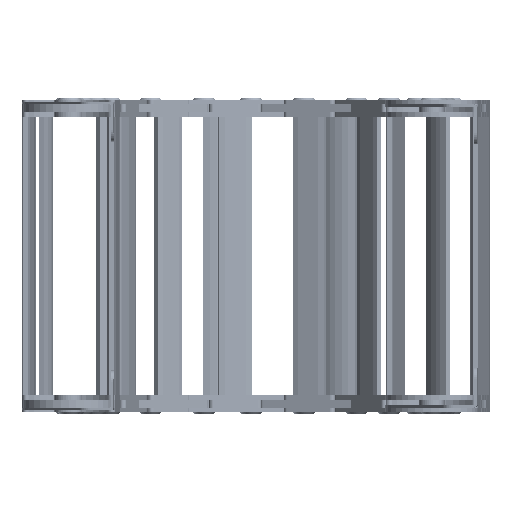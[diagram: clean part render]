
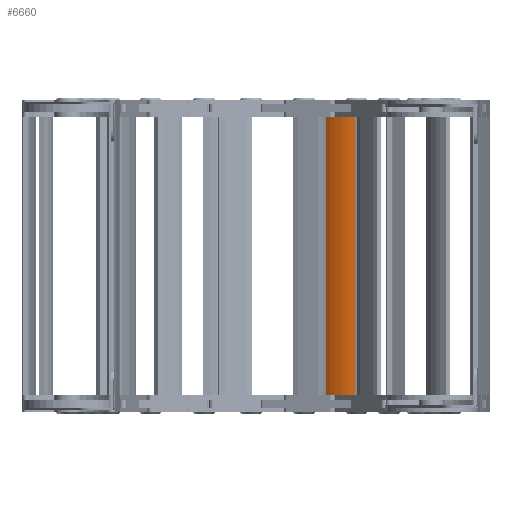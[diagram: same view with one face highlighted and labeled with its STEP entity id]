
A CAD part, left-side view. The second image highlights one B-rep face of the part: STEP entity #6660.
In plain terms, the highlighted cylindrical face has radius 52 mm (diameter 104 mm), a partial arc.
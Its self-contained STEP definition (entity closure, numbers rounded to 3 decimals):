
#6474=CARTESIAN_POINT('',(-14.018,-107.593,-513.6));
#6475=DIRECTION('',(0.,0.,1.));
#6476=DIRECTION('',(-0.202,0.979,0.));
#6477=AXIS2_PLACEMENT_3D('',#6474,#6475,#6476);
#6517=DIRECTION('',(0.,0.,1.));
#6518=VECTOR('',#6517,300.6);
#6519=CARTESIAN_POINT('',(-24.538,-56.668,-513.6));
#6520=LINE('',#6519,#6518);
#6524=DIRECTION('',(0.,0.,-1.));
#6525=VECTOR('',#6524,300.6);
#6526=CARTESIAN_POINT('',(-55.093,-75.705,-213.));
#6527=LINE('',#6526,#6525);
#6552=CARTESIAN_POINT('',(-14.018,-107.593,-213.));
#6553=DIRECTION('',(0.,0.,-1.));
#6554=DIRECTION('',(-0.79,0.613,0.));
#6555=AXIS2_PLACEMENT_3D('',#6552,#6553,#6554);
#6603=CARTESIAN_POINT('',(-24.538,-56.668,-213.));
#6605=VERTEX_POINT('',#6603);
#6606=CARTESIAN_POINT('',(-55.093,-75.705,-213.));
#6607=VERTEX_POINT('',#6606);
#6614=CARTESIAN_POINT('',(-24.538,-56.668,-513.6));
#6615=VERTEX_POINT('',#6614);
#6618=CARTESIAN_POINT('',(-55.093,-75.705,-513.6));
#6619=VERTEX_POINT('',#6618);
#6646=CARTESIAN_POINT('',(-14.018,-107.593,-288.));
#6647=DIRECTION('',(0.,0.,-1.));
#6648=DIRECTION('',(0.849,0.529,0.));
#6649=AXIS2_PLACEMENT_3D('',#6646,#6647,#6648);
#6650=CYLINDRICAL_SURFACE('',#6649,52.);
#6652=ORIENTED_EDGE('',*,*,#6651,.T.);
#6654=ORIENTED_EDGE('',*,*,#6653,.F.);
#6656=ORIENTED_EDGE('',*,*,#6655,.T.);
#6657=ORIENTED_EDGE('',*,*,#6631,.F.);
#6658=EDGE_LOOP('',(#6652,#6654,#6656,#6657));
#6659=FACE_OUTER_BOUND('',#6658,.F.);
#6660=ADVANCED_FACE('',(#6659),#6650,.T.);
#6478=CIRCLE('',#6477,52.);
#6556=CIRCLE('',#6555,52.);
#6631=EDGE_CURVE('',#6615,#6619,#6478,.T.);
#6651=EDGE_CURVE('',#6615,#6605,#6520,.T.);
#6653=EDGE_CURVE('',#6607,#6605,#6556,.T.);
#6655=EDGE_CURVE('',#6607,#6619,#6527,.T.);
